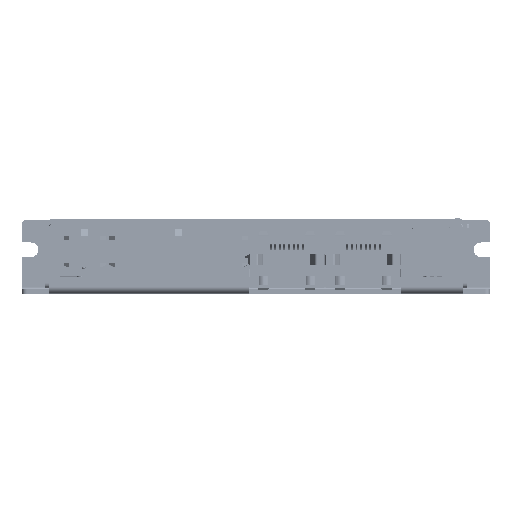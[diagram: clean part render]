
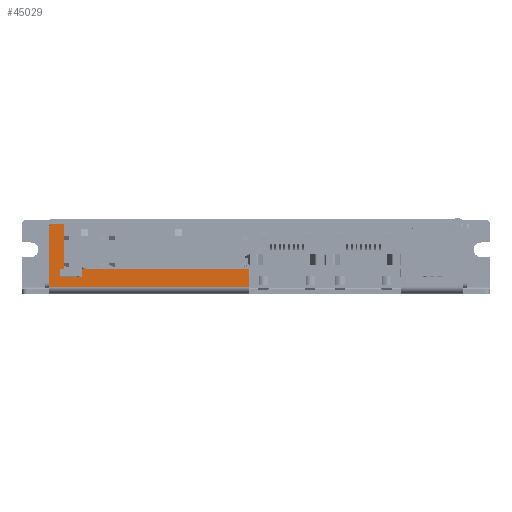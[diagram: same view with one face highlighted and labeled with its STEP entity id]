
A CAD part, top view. The second image highlights one B-rep face of the part: STEP entity #45029.
In plain terms, the highlighted planar face has unit normal (0, 0, 1) as drawn and (1, 0, 0) by its records, which use the part's own axes.
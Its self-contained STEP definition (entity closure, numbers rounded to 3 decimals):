
#1042 = CARTESIAN_POINT ( 'NONE',  ( 70., 14.4, 103. ) ) ;
#2613 = VECTOR ( 'NONE', #191977, 1000. ) ;
#3859 = DIRECTION ( 'NONE',  ( 0., 0., 1. ) ) ;
#7859 = LINE ( 'NONE', #129298, #43843 ) ;
#11672 = CARTESIAN_POINT ( 'NONE',  ( 70., 0.5, 103. ) ) ;
#14609 = VECTOR ( 'NONE', #195140, 1000. ) ;
#16591 = FACE_OUTER_BOUND ( 'NONE', #168501, .T. ) ;
#16937 = CARTESIAN_POINT ( 'NONE',  ( 70., 2.7, 89.7 ) ) ;
#19239 = VERTEX_POINT ( 'NONE', #43004 ) ;
#19426 = LINE ( 'NONE', #179727, #14609 ) ;
#21802 = ORIENTED_EDGE ( 'NONE', *, *, #184175, .F. ) ;
#23939 = AXIS2_PLACEMENT_3D ( 'NONE', #194727, #149167, #57754 ) ;
#24936 = CARTESIAN_POINT ( 'NONE',  ( 70., 4.4, 89.7 ) ) ;
#25512 = ORIENTED_EDGE ( 'NONE', *, *, #170558, .F. ) ;
#26829 = ORIENTED_EDGE ( 'NONE', *, *, #35851, .F. ) ;
#28321 = VERTEX_POINT ( 'NONE', #24936 ) ;
#34206 = LINE ( 'NONE', #11672, #110653 ) ;
#34351 = EDGE_CURVE ( 'NONE', #43702, #145067, #171239, .T. ) ;
#35312 = ORIENTED_EDGE ( 'NONE', *, *, #34351, .F. ) ;
#35851 = EDGE_CURVE ( 'NONE', #154555, #88947, #19426, .T. ) ;
#43004 = CARTESIAN_POINT ( 'NONE',  ( 70., 4.4, 93.8 ) ) ;
#43702 = VERTEX_POINT ( 'NONE', #129007 ) ;
#43843 = VECTOR ( 'NONE', #53234, 1000. ) ;
#45029 = ADVANCED_FACE ( 'NONE', ( #16591 ), #87809, .F. ) ;
#45851 = CARTESIAN_POINT ( 'NONE',  ( 70., 0.5, 97. ) ) ;
#47183 = CARTESIAN_POINT ( 'NONE',  ( 70., 0.5, 53.1 ) ) ;
#48806 = CARTESIAN_POINT ( 'NONE',  ( 70., 13.4, 97. ) ) ;
#52251 = CARTESIAN_POINT ( 'NONE',  ( 70., 2.7, 89.7 ) ) ;
#53234 = DIRECTION ( 'NONE',  ( 0., 1., 0. ) ) ;
#57754 = DIRECTION ( 'NONE',  ( 0., 0., 1. ) ) ;
#57836 = ORIENTED_EDGE ( 'NONE', *, *, #97808, .F. ) ;
#58537 = DIRECTION ( 'NONE',  ( 0., 0., -1. ) ) ;
#61381 = VERTEX_POINT ( 'NONE', #151447 ) ;
#61428 = VECTOR ( 'NONE', #92084, 1000. ) ;
#64736 = LINE ( 'NONE', #179032, #181889 ) ;
#67370 = DIRECTION ( 'NONE',  ( 1., 0., 0. ) ) ;
#67530 = VECTOR ( 'NONE', #124004, 1000. ) ;
#67591 = DIRECTION ( 'NONE',  ( 0., 1., 0. ) ) ;
#67658 = EDGE_CURVE ( 'NONE', #19239, #154555, #67819, .T. ) ;
#67819 = LINE ( 'NONE', #156251, #144253 ) ;
#78191 = VERTEX_POINT ( 'NONE', #45851 ) ;
#81528 = VERTEX_POINT ( 'NONE', #48806 ) ;
#84070 = LINE ( 'NONE', #85111, #2613 ) ;
#85111 = CARTESIAN_POINT ( 'NONE',  ( 70., 2.7, 94.7 ) ) ;
#87809 = PLANE ( 'NONE',  #23939 ) ;
#88947 = VERTEX_POINT ( 'NONE', #188629 ) ;
#88987 = ORIENTED_EDGE ( 'NONE', *, *, #109104, .F. ) ;
#91908 = ORIENTED_EDGE ( 'NONE', *, *, #67658, .F. ) ;
#92084 = DIRECTION ( 'NONE',  ( 0., 0., -1. ) ) ;
#92827 = DIRECTION ( 'NONE',  ( 0., -1., 0. ) ) ;
#93460 = CARTESIAN_POINT ( 'NONE',  ( 70., 4.4, 53.1 ) ) ;
#96083 = VECTOR ( 'NONE', #67591, 1000. ) ;
#97808 = EDGE_CURVE ( 'NONE', #28321, #43702, #148759, .T. ) ;
#99419 = AXIS2_PLACEMENT_3D ( 'NONE', #158861, #67370, #174293 ) ;
#108654 = CARTESIAN_POINT ( 'NONE',  ( 70., 4.4, 89.7 ) ) ;
#108660 = EDGE_CURVE ( 'NONE', #78191, #145067, #34206, .T. ) ;
#109104 = EDGE_CURVE ( 'NONE', #88947, #119247, #84070, .T. ) ;
#110653 = VECTOR ( 'NONE', #58537, 1000. ) ;
#112465 = VERTEX_POINT ( 'NONE', #195458 ) ;
#113792 = CARTESIAN_POINT ( 'NONE',  ( 70., 4.4, 94.7 ) ) ;
#119247 = VERTEX_POINT ( 'NONE', #16937 ) ;
#122897 = EDGE_CURVE ( 'NONE', #112465, #81528, #173754, .T. ) ;
#124004 = DIRECTION ( 'NONE',  ( 0., 0., -1. ) ) ;
#129007 = CARTESIAN_POINT ( 'NONE',  ( 70., 4.4, 53.1 ) ) ;
#129298 = CARTESIAN_POINT ( 'NONE',  ( 70., 22.659, 97. ) ) ;
#130584 = VECTOR ( 'NONE', #92827, 1000. ) ;
#132229 = DIRECTION ( 'NONE',  ( 0., -1., 0. ) ) ;
#135924 = ORIENTED_EDGE ( 'NONE', *, *, #149599, .F. ) ;
#141443 = LINE ( 'NONE', #52251, #96083 ) ;
#144253 = VECTOR ( 'NONE', #3859, 1000. ) ;
#145067 = VERTEX_POINT ( 'NONE', #47183 ) ;
#146699 = ORIENTED_EDGE ( 'NONE', *, *, #197466, .F. ) ;
#148759 = LINE ( 'NONE', #108654, #67530 ) ;
#149167 = DIRECTION ( 'NONE',  ( -1., 0., 0. ) ) ;
#149599 = EDGE_CURVE ( 'NONE', #78191, #81528, #7859, .T. ) ;
#151447 = CARTESIAN_POINT ( 'NONE',  ( 70., 14.4, 93.8 ) ) ;
#154555 = VERTEX_POINT ( 'NONE', #113792 ) ;
#156251 = CARTESIAN_POINT ( 'NONE',  ( 70., 4.4, 94.7 ) ) ;
#158861 = CARTESIAN_POINT ( 'NONE',  ( 70., 13.4, 96. ) ) ;
#159037 = ORIENTED_EDGE ( 'NONE', *, *, #122897, .T. ) ;
#161912 = ORIENTED_EDGE ( 'NONE', *, *, #108660, .T. ) ;
#168501 = EDGE_LOOP ( 'NONE', ( #146699, #159037, #135924, #161912, #35312, #57836, #25512, #88987, #26829, #91908, #21802 ) ) ;
#170558 = EDGE_CURVE ( 'NONE', #119247, #28321, #141443, .T. ) ;
#171239 = LINE ( 'NONE', #93460, #130584 ) ;
#173754 = CIRCLE ( 'NONE', #99419, 1. ) ;
#174293 = DIRECTION ( 'NONE',  ( 0., 0., 1. ) ) ;
#178587 = LINE ( 'NONE', #1042, #61428 ) ;
#179032 = CARTESIAN_POINT ( 'NONE',  ( 70., 4.4, 93.8 ) ) ;
#179727 = CARTESIAN_POINT ( 'NONE',  ( 70., 2.7, 94.7 ) ) ;
#181889 = VECTOR ( 'NONE', #132229, 1000. ) ;
#184175 = EDGE_CURVE ( 'NONE', #61381, #19239, #64736, .T. ) ;
#188629 = CARTESIAN_POINT ( 'NONE',  ( 70., 2.7, 94.7 ) ) ;
#191977 = DIRECTION ( 'NONE',  ( 0., 0., -1. ) ) ;
#194727 = CARTESIAN_POINT ( 'NONE',  ( 70., 0., 103. ) ) ;
#195140 = DIRECTION ( 'NONE',  ( 0., -1., 0. ) ) ;
#195458 = CARTESIAN_POINT ( 'NONE',  ( 70., 14.4, 96. ) ) ;
#197466 = EDGE_CURVE ( 'NONE', #112465, #61381, #178587, .T. ) ;
